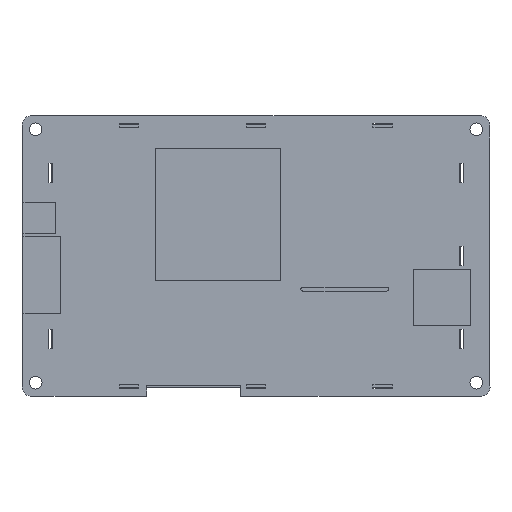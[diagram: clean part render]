
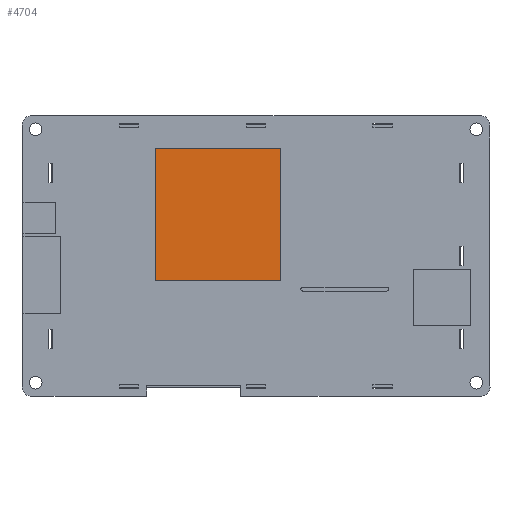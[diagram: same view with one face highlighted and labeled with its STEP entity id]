
A CAD part, top view. The second image highlights one B-rep face of the part: STEP entity #4704.
In plain terms, the highlighted planar face has unit normal (0, 0, 1).
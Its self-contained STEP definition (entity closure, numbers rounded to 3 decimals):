
#2314=DIRECTION('',(0.,-1.,0.));
#2315=VECTOR('',#2314,34.417);
#2316=CARTESIAN_POINT('',(1213.337,829.043,3.));
#2317=LINE('',#2316,#2315);
#2321=DIRECTION('',(-1.,0.,0.));
#2322=VECTOR('',#2321,32.766);
#2323=CARTESIAN_POINT('',(1246.103,829.043,3.));
#2324=LINE('',#2323,#2322);
#2328=DIRECTION('',(0.,1.,0.));
#2329=VECTOR('',#2328,34.417);
#2330=CARTESIAN_POINT('',(1246.103,794.626,3.));
#2331=LINE('',#2330,#2329);
#2335=DIRECTION('',(1.,0.,0.));
#2336=VECTOR('',#2335,32.766);
#2337=CARTESIAN_POINT('',(1213.337,794.626,3.));
#2338=LINE('',#2337,#2336);
#2610=CARTESIAN_POINT('',(1213.337,829.043,3.));
#2611=CARTESIAN_POINT('',(1213.337,794.626,3.));
#2612=VERTEX_POINT('',#2610);
#2613=VERTEX_POINT('',#2611);
#2614=CARTESIAN_POINT('',(1246.103,794.626,3.));
#2615=VERTEX_POINT('',#2614);
#2616=CARTESIAN_POINT('',(1246.103,829.043,3.));
#2617=VERTEX_POINT('',#2616);
#4693=CARTESIAN_POINT('',(1235.689,764.526,3.));
#4694=DIRECTION('',(0.,0.,1.));
#4695=DIRECTION('',(1.,0.,0.));
#4696=AXIS2_PLACEMENT_3D('',#4693,#4694,#4695);
#4697=PLANE('',#4696);
#4698=ORIENTED_EDGE('',*,*,#4645,.F.);
#4699=ORIENTED_EDGE('',*,*,#4660,.F.);
#4700=ORIENTED_EDGE('',*,*,#4674,.F.);
#4701=ORIENTED_EDGE('',*,*,#4687,.F.);
#4702=EDGE_LOOP('',(#4698,#4699,#4700,#4701));
#4703=FACE_OUTER_BOUND('',#4702,.F.);
#4645=EDGE_CURVE('',#2612,#2613,#2317,.T.);
#4660=EDGE_CURVE('',#2617,#2612,#2324,.T.);
#4674=EDGE_CURVE('',#2615,#2617,#2331,.T.);
#4687=EDGE_CURVE('',#2613,#2615,#2338,.T.);
#4704=ADVANCED_FACE('',(#4703),#4697,.T.);
